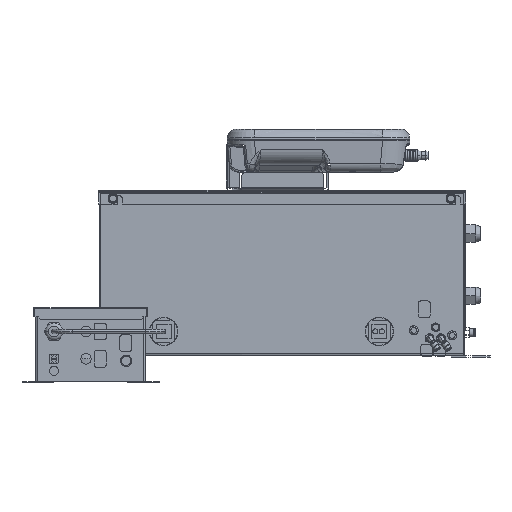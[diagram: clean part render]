
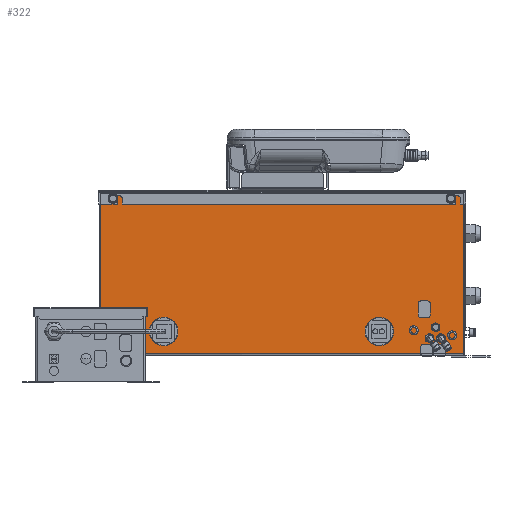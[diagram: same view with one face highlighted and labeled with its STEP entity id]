
A CAD part, left-side view. The second image highlights one B-rep face of the part: STEP entity #322.
In plain terms, the highlighted planar face has unit normal (-1, 0, 0).
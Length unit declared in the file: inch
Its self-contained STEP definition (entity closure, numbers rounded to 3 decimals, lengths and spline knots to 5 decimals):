
#1=DIRECTION('',(0.,-1.,0.));
#2=VECTOR('',#1,19.88);
#3=CARTESIAN_POINT('',(-9.63,9.94,0.12));
#4=LINE('',#3,#2);
#23=DIRECTION('',(0.,0.,1.));
#24=VECTOR('',#23,8.76);
#25=CARTESIAN_POINT('',(-9.63,-9.94,0.12));
#26=LINE('',#25,#24);
#27=DIRECTION('',(0.,0.,-1.));
#28=VECTOR('',#27,8.76);
#29=CARTESIAN_POINT('',(-9.63,9.94,8.88));
#30=LINE('',#29,#28);
#31=DIRECTION('',(0.,-1.,0.));
#32=VECTOR('',#31,19.88);
#33=CARTESIAN_POINT('',(-9.63,9.94,8.88));
#34=LINE('',#33,#32);
#255=CARTESIAN_POINT('',(-9.63,9.94,8.88));
#256=CARTESIAN_POINT('',(-9.63,9.94,0.12));
#257=VERTEX_POINT('',#255);
#258=VERTEX_POINT('',#256);
#267=CARTESIAN_POINT('',(-9.63,-9.94,0.12));
#268=CARTESIAN_POINT('',(-9.63,-9.94,8.88));
#269=VERTEX_POINT('',#267);
#270=VERTEX_POINT('',#268);
#308=CARTESIAN_POINT('',(-9.63,-9.88,0.));
#309=DIRECTION('',(-1.,0.,0.));
#310=DIRECTION('',(0.,-1.,0.));
#311=AXIS2_PLACEMENT_3D('',#308,#309,#310);
#312=PLANE('',#311);
#314=ORIENTED_EDGE('',*,*,#313,.F.);
#315=ORIENTED_EDGE('',*,*,#298,.F.);
#317=ORIENTED_EDGE('',*,*,#316,.F.);
#319=ORIENTED_EDGE('',*,*,#318,.T.);
#320=EDGE_LOOP('',(#314,#315,#317,#319));
#321=FACE_OUTER_BOUND('',#320,.F.);
#322=ADVANCED_FACE('',(#321),#312,.T.);
#298=EDGE_CURVE('',#258,#269,#4,.T.);
#313=EDGE_CURVE('',#269,#270,#26,.T.);
#316=EDGE_CURVE('',#257,#258,#30,.T.);
#318=EDGE_CURVE('',#257,#270,#34,.T.);
